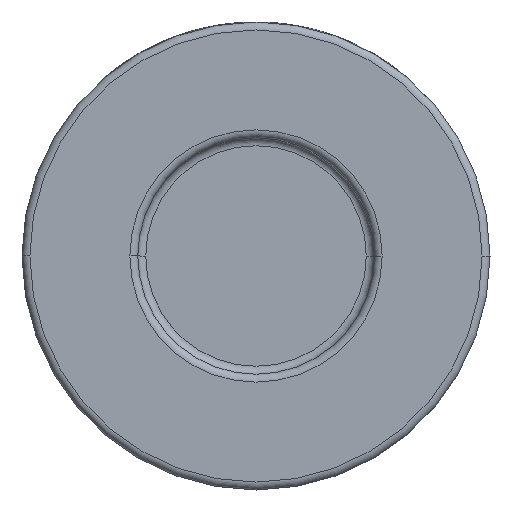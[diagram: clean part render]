
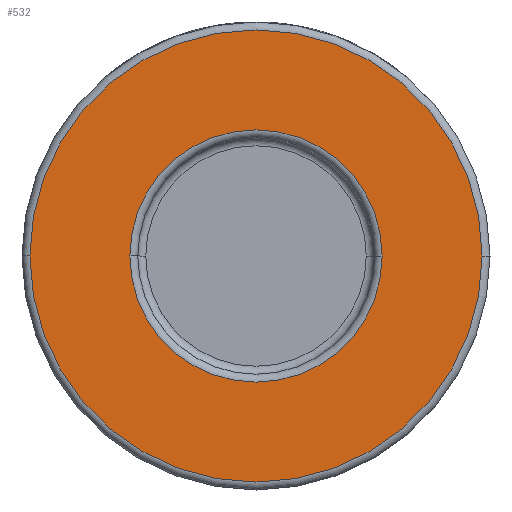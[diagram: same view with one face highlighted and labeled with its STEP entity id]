
A CAD part, front view. The second image highlights one B-rep face of the part: STEP entity #532.
In plain terms, the highlighted planar face has unit normal (0, -1, 0).
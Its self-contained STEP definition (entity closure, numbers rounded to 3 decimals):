
#51 = DIRECTION ( 'NONE',  ( 1., 0., 0. ) ) ;
#150 = DIRECTION ( 'NONE',  ( 1., 0., 0. ) ) ;
#269 = ORIENTED_EDGE ( 'NONE', *, *, #3325, .T. ) ;
#305 = CARTESIAN_POINT ( 'NONE',  ( 28.5, -27., 0. ) ) ;
#399 = CIRCLE ( 'NONE', #3021, 15.9 ) ;
#405 = VERTEX_POINT ( 'NONE', #2132 ) ;
#410 = FACE_BOUND ( 'NONE', #1735, .T. ) ;
#425 = CARTESIAN_POINT ( 'NONE',  ( 0., -27., 0. ) ) ;
#456 = DIRECTION ( 'NONE',  ( 1., 0., 0. ) ) ;
#532 = ADVANCED_FACE ( 'NONE', ( #410, #1504 ), #2944, .T. ) ;
#808 = DIRECTION ( 'NONE',  ( 0., -1., 0. ) ) ;
#852 = DIRECTION ( 'NONE',  ( 0., 1., 0. ) ) ;
#1078 = VERTEX_POINT ( 'NONE', #4400 ) ;
#1156 = DIRECTION ( 'NONE',  ( 1., 0., 0. ) ) ;
#1504 = FACE_OUTER_BOUND ( 'NONE', #2867, .T. ) ;
#1522 = ORIENTED_EDGE ( 'NONE', *, *, #4016, .T. ) ;
#1529 = ORIENTED_EDGE ( 'NONE', *, *, #3722, .T. ) ;
#1735 = EDGE_LOOP ( 'NONE', ( #2218, #1529 ) ) ;
#1765 = VERTEX_POINT ( 'NONE', #305 ) ;
#1782 = AXIS2_PLACEMENT_3D ( 'NONE', #4387, #3608, #1156 ) ;
#1835 = DIRECTION ( 'NONE',  ( 1., 0., 0. ) ) ;
#2006 = DIRECTION ( 'NONE',  ( 0., 1., 0. ) ) ;
#2132 = CARTESIAN_POINT ( 'NONE',  ( 15.9, -27., 0. ) ) ;
#2218 = ORIENTED_EDGE ( 'NONE', *, *, #2718, .T. ) ;
#2331 = AXIS2_PLACEMENT_3D ( 'NONE', #3792, #2006, #150 ) ;
#2417 = CIRCLE ( 'NONE', #2645, 28.5 ) ;
#2423 = CIRCLE ( 'NONE', #3403, 28.5 ) ;
#2645 = AXIS2_PLACEMENT_3D ( 'NONE', #425, #3626, #51 ) ;
#2718 = EDGE_CURVE ( 'NONE', #405, #4532, #3146, .T. ) ;
#2867 = EDGE_LOOP ( 'NONE', ( #1522, #269 ) ) ;
#2944 = PLANE ( 'NONE',  #1782 ) ;
#3021 = AXIS2_PLACEMENT_3D ( 'NONE', #3366, #852, #1835 ) ;
#3146 = CIRCLE ( 'NONE', #2331, 15.9 ) ;
#3325 = EDGE_CURVE ( 'NONE', #1078, #1765, #2423, .T. ) ;
#3366 = CARTESIAN_POINT ( 'NONE',  ( 0., -27., 0. ) ) ;
#3403 = AXIS2_PLACEMENT_3D ( 'NONE', #4032, #808, #456 ) ;
#3608 = DIRECTION ( 'NONE',  ( 0., -1., 0. ) ) ;
#3626 = DIRECTION ( 'NONE',  ( 0., -1., 0. ) ) ;
#3722 = EDGE_CURVE ( 'NONE', #4532, #405, #399, .T. ) ;
#3792 = CARTESIAN_POINT ( 'NONE',  ( 0., -27., 0. ) ) ;
#4016 = EDGE_CURVE ( 'NONE', #1765, #1078, #2417, .T. ) ;
#4032 = CARTESIAN_POINT ( 'NONE',  ( 0., -27., 0. ) ) ;
#4387 = CARTESIAN_POINT ( 'NONE',  ( 29.5, -27., 0. ) ) ;
#4400 = CARTESIAN_POINT ( 'NONE',  ( -28.5, -27., 0. ) ) ;
#4518 = CARTESIAN_POINT ( 'NONE',  ( -15.9, -27., 0. ) ) ;
#4532 = VERTEX_POINT ( 'NONE', #4518 ) ;
